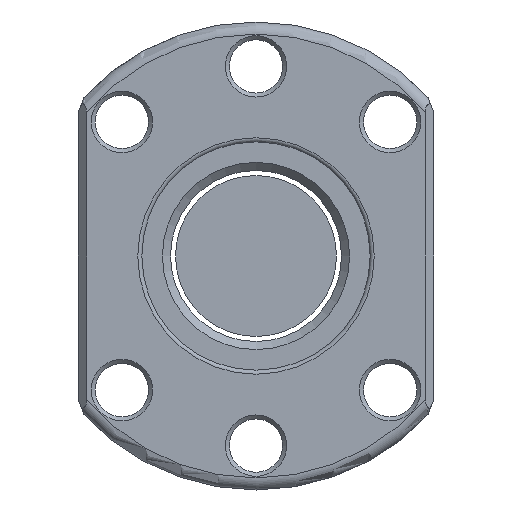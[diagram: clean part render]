
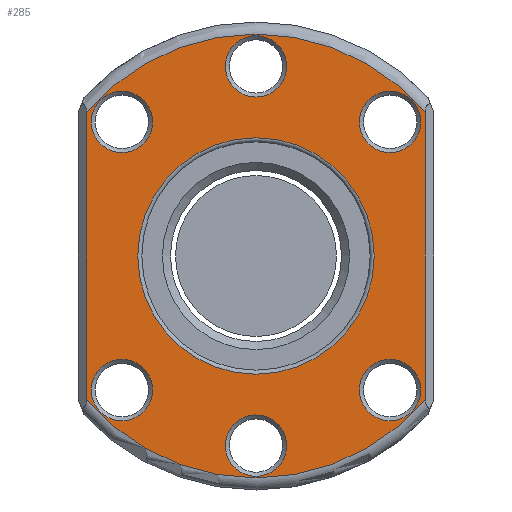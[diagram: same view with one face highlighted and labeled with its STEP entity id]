
A CAD part, front view. The second image highlights one B-rep face of the part: STEP entity #285.
In plain terms, the highlighted planar face has unit normal (0, -1, 0).
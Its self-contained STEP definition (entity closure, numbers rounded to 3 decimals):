
#55=LINE('',#1749,#95);
#56=LINE('',#1753,#96);
#95=VECTOR('',#1438,1.);
#96=VECTOR('',#1441,1.);
#210=PLANE('',#1208);
#285=ADVANCED_FACE('',(#386,#387,#388,#389,#390,#391,#392,#393),#210,.F.);
#386=FACE_BOUND('',#506,.T.);
#387=FACE_BOUND('',#507,.T.);
#388=FACE_BOUND('',#508,.T.);
#389=FACE_BOUND('',#509,.T.);
#390=FACE_BOUND('',#510,.T.);
#391=FACE_BOUND('',#511,.T.);
#392=FACE_BOUND('',#512,.T.);
#393=FACE_BOUND('',#513,.T.);
#506=EDGE_LOOP('',(#678));
#507=EDGE_LOOP('',(#679));
#508=EDGE_LOOP('',(#680));
#509=EDGE_LOOP('',(#681));
#510=EDGE_LOOP('',(#682));
#511=EDGE_LOOP('',(#683));
#512=EDGE_LOOP('',(#684));
#513=EDGE_LOOP('',(#685,#686,#687,#688));
#678=ORIENTED_EDGE('',*,*,#989,.T.);
#679=ORIENTED_EDGE('',*,*,#990,.T.);
#680=ORIENTED_EDGE('',*,*,#991,.T.);
#681=ORIENTED_EDGE('',*,*,#992,.T.);
#682=ORIENTED_EDGE('',*,*,#993,.T.);
#683=ORIENTED_EDGE('',*,*,#994,.T.);
#684=ORIENTED_EDGE('',*,*,#995,.T.);
#685=ORIENTED_EDGE('',*,*,#996,.T.);
#686=ORIENTED_EDGE('',*,*,#997,.T.);
#687=ORIENTED_EDGE('',*,*,#998,.T.);
#688=ORIENTED_EDGE('',*,*,#999,.T.);
#880=VERTEX_POINT('',#1733);
#881=VERTEX_POINT('',#1735);
#882=VERTEX_POINT('',#1737);
#883=VERTEX_POINT('',#1739);
#884=VERTEX_POINT('',#1741);
#885=VERTEX_POINT('',#1743);
#886=VERTEX_POINT('',#1745);
#887=VERTEX_POINT('',#1747);
#888=VERTEX_POINT('',#1748);
#889=VERTEX_POINT('',#1750);
#890=VERTEX_POINT('',#1752);
#989=EDGE_CURVE('',#880,#880,#1098,.T.);
#990=EDGE_CURVE('',#881,#881,#1099,.T.);
#991=EDGE_CURVE('',#882,#882,#1100,.T.);
#992=EDGE_CURVE('',#883,#883,#1101,.T.);
#993=EDGE_CURVE('',#884,#884,#1102,.T.);
#994=EDGE_CURVE('',#885,#885,#1103,.T.);
#995=EDGE_CURVE('',#886,#886,#1104,.T.);
#996=EDGE_CURVE('',#887,#888,#1105,.T.);
#997=EDGE_CURVE('',#888,#889,#55,.T.);
#998=EDGE_CURVE('',#889,#890,#1106,.T.);
#999=EDGE_CURVE('',#890,#887,#56,.T.);
#1098=CIRCLE('',#1199,14.65);
#1099=CIRCLE('',#1200,3.8);
#1100=CIRCLE('',#1201,3.8);
#1101=CIRCLE('',#1202,3.8);
#1102=CIRCLE('',#1203,3.8);
#1103=CIRCLE('',#1204,3.8);
#1104=CIRCLE('',#1205,3.8);
#1105=CIRCLE('',#1206,27.5);
#1106=CIRCLE('',#1207,27.5);
#1199=AXIS2_PLACEMENT_3D('',#1732,#1422,#1423);
#1200=AXIS2_PLACEMENT_3D('',#1734,#1424,#1425);
#1201=AXIS2_PLACEMENT_3D('',#1736,#1426,#1427);
#1202=AXIS2_PLACEMENT_3D('',#1738,#1428,#1429);
#1203=AXIS2_PLACEMENT_3D('',#1740,#1430,#1431);
#1204=AXIS2_PLACEMENT_3D('',#1742,#1432,#1433);
#1205=AXIS2_PLACEMENT_3D('',#1744,#1434,#1435);
#1206=AXIS2_PLACEMENT_3D('',#1746,#1436,#1437);
#1207=AXIS2_PLACEMENT_3D('',#1751,#1439,#1440);
#1208=AXIS2_PLACEMENT_3D('',#1754,#1442,#1443);
#1422=DIRECTION('',(0.,1.,0.));
#1423=DIRECTION('',(0.,0.,1.));
#1424=DIRECTION('',(0.,1.,0.));
#1425=DIRECTION('',(0.,0.,1.));
#1426=DIRECTION('',(0.,1.,0.));
#1427=DIRECTION('',(0.,0.,1.));
#1428=DIRECTION('',(0.,1.,0.));
#1429=DIRECTION('',(0.,0.,1.));
#1430=DIRECTION('',(0.,1.,0.));
#1431=DIRECTION('',(0.,0.,1.));
#1432=DIRECTION('',(0.,1.,0.));
#1433=DIRECTION('',(0.,0.,1.));
#1434=DIRECTION('',(0.,1.,0.));
#1435=DIRECTION('',(0.,0.,1.));
#1436=DIRECTION('',(0.,-1.,0.));
#1437=DIRECTION('',(0.,0.,1.));
#1438=DIRECTION('',(0.,0.,-1.));
#1439=DIRECTION('',(0.,-1.,0.));
#1440=DIRECTION('',(0.,0.,1.));
#1441=DIRECTION('',(0.,0.,1.));
#1442=DIRECTION('',(0.,1.,0.));
#1443=DIRECTION('',(0.,0.,1.));
#1732=CARTESIAN_POINT('',(0.,0.,0.));
#1733=CARTESIAN_POINT('',(0.,0.,14.65));
#1734=CARTESIAN_POINT('',(16.617,0.,-16.617));
#1735=CARTESIAN_POINT('',(16.617,0.,-12.817));
#1736=CARTESIAN_POINT('',(16.617,0.,16.617));
#1737=CARTESIAN_POINT('',(16.617,0.,20.417));
#1738=CARTESIAN_POINT('',(0.,0.,23.5));
#1739=CARTESIAN_POINT('',(0.,0.,27.3));
#1740=CARTESIAN_POINT('',(0.,0.,-23.5));
#1741=CARTESIAN_POINT('',(0.,0.,-19.7));
#1742=CARTESIAN_POINT('',(-16.617,0.,-16.617));
#1743=CARTESIAN_POINT('',(-16.617,0.,-12.817));
#1744=CARTESIAN_POINT('',(-16.617,0.,16.617));
#1745=CARTESIAN_POINT('',(-16.617,0.,20.417));
#1746=CARTESIAN_POINT('',(0.,0.,0.));
#1747=CARTESIAN_POINT('',(21.,0.,17.755));
#1748=CARTESIAN_POINT('',(-21.,0.,17.755));
#1749=CARTESIAN_POINT('',(-21.,0.,-16.5));
#1750=CARTESIAN_POINT('',(-21.,0.,-17.755));
#1751=CARTESIAN_POINT('',(0.,0.,0.));
#1752=CARTESIAN_POINT('',(21.,0.,-17.755));
#1753=CARTESIAN_POINT('',(21.,0.,16.5));
#1754=CARTESIAN_POINT('',(0.,0.,0.));
